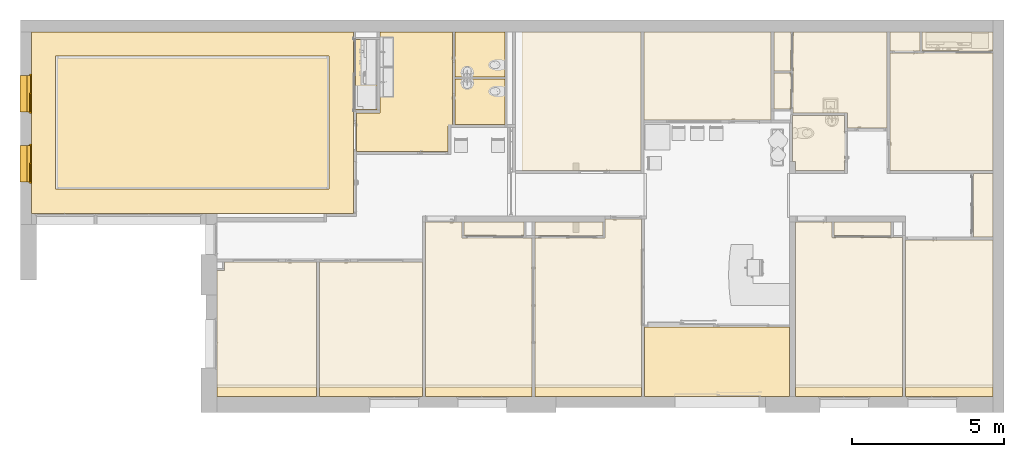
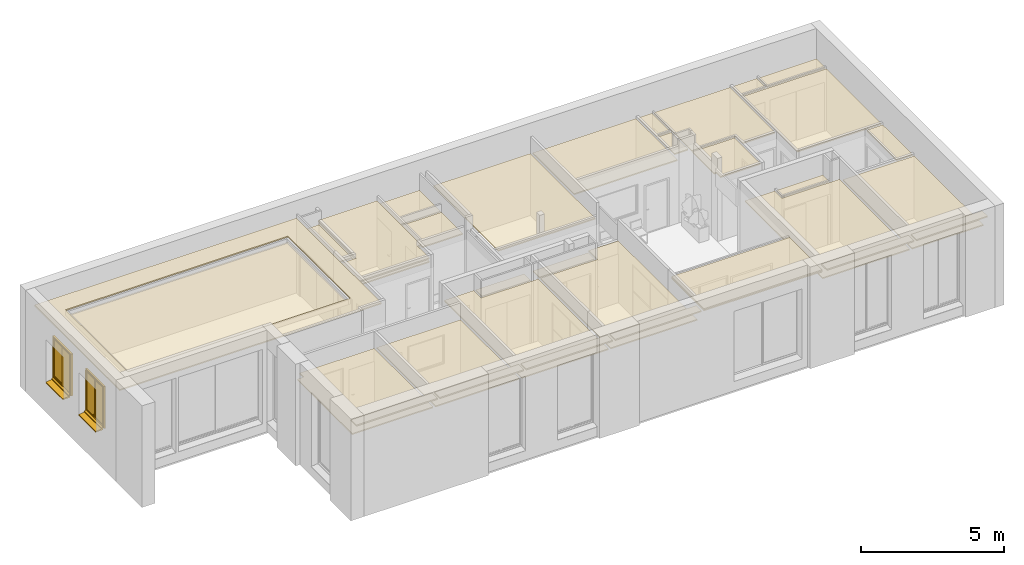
# One storey, part 26 of 32: 9 coverings, 2 windows.
"""IFC2X3 building model written with IfcOpenShell, lengths in metres."""

from ifc_helpers import new_model, entity, si_unit, converted_unit, derived_unit, direction, frame, frame_2d, origin, origin_2d_with_axis, place, context, subcontext, project, spatial, polyline, rectangle, outline, extrude, faceted_brep, source, transform, mapped, material, material_list, layer, layer_set, layer_usage, type_object, type_shapes, element, save


model = new_model("IFC2X3")

# Units and contexts
model_context = context("Model", 3, precision=1e-05, world=origin(), true_north=direction((6.12303176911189e-17, 1.0)))
plan_context = context("Plan", 3, precision=1e-05, world=origin(), true_north=direction((6.12303176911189e-17, 1.0)))
body_context = subcontext(model_context, "Body", "Model", "MODEL_VIEW")
ifc_project = project(units=[si_unit("LENGTHUNIT", "METRE"), si_unit("AREAUNIT", "SQUARE_METRE"), si_unit("VOLUMEUNIT", "CUBIC_METRE"), converted_unit("PLANEANGLEUNIT", "DEGREE", entity("IfcRatioMeasure", 0.0174532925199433), si_unit("PLANEANGLEUNIT", "RADIAN"), dimensions=[0, 0, 0, 0, 0, 0, 0]), si_unit("MASSUNIT", "GRAM", prefix="KILO"), derived_unit("MASSDENSITYUNIT", [(si_unit("MASSUNIT", "GRAM", prefix="KILO"), 1), (si_unit("LENGTHUNIT", "METRE"), -3)]), derived_unit("MOMENTOFINERTIAUNIT", [(si_unit("LENGTHUNIT", "METRE"), 4)]), si_unit("TIMEUNIT", "SECOND"), si_unit("FREQUENCYUNIT", "HERTZ"), si_unit("THERMODYNAMICTEMPERATUREUNIT", "DEGREE_CELSIUS"), derived_unit("THERMALTRANSMITTANCEUNIT", [(si_unit("MASSUNIT", "GRAM", prefix="KILO"), 1), (si_unit("THERMODYNAMICTEMPERATUREUNIT", "KELVIN"), -1), (si_unit("TIMEUNIT", "SECOND"), -3)]), derived_unit("VOLUMETRICFLOWRATEUNIT", [(si_unit("LENGTHUNIT", "METRE"), 3), (si_unit("TIMEUNIT", "SECOND"), -1)]), si_unit("ELECTRICCURRENTUNIT", "AMPERE"), si_unit("ELECTRICVOLTAGEUNIT", "VOLT"), si_unit("POWERUNIT", "WATT"), si_unit("FORCEUNIT", "NEWTON", prefix="KILO"), si_unit("ILLUMINANCEUNIT", "LUX"), si_unit("LUMINOUSFLUXUNIT", "LUMEN"), si_unit("LUMINOUSINTENSITYUNIT", "CANDELA"), derived_unit("USERDEFINED", [(si_unit("MASSUNIT", "GRAM", prefix="KILO"), -1), (si_unit("LENGTHUNIT", "METRE"), -2), (si_unit("TIMEUNIT", "SECOND"), 3), (si_unit("LUMINOUSFLUXUNIT", "LUMEN"), 1)]), derived_unit("LINEARVELOCITYUNIT", [(si_unit("LENGTHUNIT", "METRE"), 1), (si_unit("TIMEUNIT", "SECOND"), -1)]), si_unit("PRESSUREUNIT", "PASCAL"), derived_unit("USERDEFINED", [(si_unit("LENGTHUNIT", "METRE"), -2), (si_unit("MASSUNIT", "GRAM", prefix="KILO"), 1), (si_unit("TIMEUNIT", "SECOND"), -2)]), derived_unit("LINEARFORCEUNIT", [(si_unit("MASSUNIT", "GRAM", prefix="KILO"), 1), (si_unit("LENGTHUNIT", "METRE"), 1), (si_unit("TIMEUNIT", "SECOND"), -2), (si_unit("LENGTHUNIT", "METRE"), -1)]), derived_unit("PLANARFORCEUNIT", [(si_unit("MASSUNIT", "GRAM", prefix="KILO"), 1), (si_unit("LENGTHUNIT", "METRE"), 1), (si_unit("TIMEUNIT", "SECOND"), -2), (si_unit("LENGTHUNIT", "METRE"), -2)])], contexts=[model_context, plan_context])

# Site, building, storey
site_placement = place(None, origin())
site = spatial("IfcSite", under=ifc_project, at=site_placement, Name="Default", CompositionType="ELEMENT")
building_placement = place(site_placement, origin())
building = spatial("IfcBuilding", under=site, at=building_placement, CompositionType="ELEMENT")
storey_placement = place(building_placement, origin())
storey = spatial("IfcBuildingStorey", under=building, at=storey_placement, Name="0 Mairie RDC 0.00", CompositionType="ELEMENT", Elevation=-1.94916083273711e-14)

# Windows
ifc_material_1 = material(Name="Fenêtre - Poignée")
ifc_material_2 = material(Name="Fenêtre - Cadre")
ifc_material_list_1 = material_list([ifc_material_1, ifc_material_2])
ifc_material_3 = material(Name="Fenêtre - Vitrage")
ifc_material_4 = material(Name="Fenêtre - Appui")
ifc_material_list_2 = material_list([ifc_material_2, ifc_material_1, ifc_material_3, ifc_material_4])
window_style = type_object("IfcWindowStyle", Name="Fenêtres : 2 Vantaux coulissants - Droits : 1.20m x 1.75m", ConstructionType="NOTDEFINED", OperationType="DOUBLE_PANEL_VERTICAL", ParameterTakesPrecedence=False, Sizeable=False, material=ifc_material_list_2)
shared_shape = source(origin(), body_context, "Body", "SolidModel", [
    extrude(outline(polyline([(-0.0359584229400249, -0.115000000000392), (0.044041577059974, -0.115000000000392), (0.044041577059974, 0.180000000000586), (0.00479211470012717, 0.180000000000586), (-0.0209584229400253, -0.0649999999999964), (-0.0359584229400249, -0.0650000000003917), (-0.0359584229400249, -0.115000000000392)])), frame((0.0500000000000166, 0.515000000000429, 0.0440415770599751), z_axis=(1.0, 0.0, 0.0), x_axis=(0.0, 0.0, -1.0)), (0.0, 0.0, 1.0), 1.2),
    extrude(rectangle(XDim=0.012, YDim=0.524999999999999, at=frame_2d((0.0, 2.77555756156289e-17), x_axis=(1.0, 0.0))), frame((0.362500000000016, 0.365000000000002, 0.180000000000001), z_axis=(0.0, 0.0, 1.0), x_axis=(0.0, -1.0, 0.0)), (0.0, 0.0, 1.0), 1.6),
    extrude(outline(polyline([(-0.312500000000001, -0.849999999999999), (0.3125, -0.849999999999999), (0.312500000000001, 0.849999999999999), (-0.3125, 0.849999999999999), (-0.312500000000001, -0.849999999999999)]), holes=[polyline([(0.262499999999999, -0.799999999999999), (-0.2625, -0.799999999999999), (-0.262499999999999, 0.799999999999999), (0.2625, 0.799999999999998), (0.262499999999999, -0.799999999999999)])]), frame((0.362500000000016, 0.350000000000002, 0.979999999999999), z_axis=(0.0, 1.0, 0.0), x_axis=(-1.0, 0.0, 0.0)), (0.0, 0.0, 1.0), 0.0299999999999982),
    extrude(rectangle(XDim=0.012, YDim=0.525, at=frame_2d((0.0, -2.77555756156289e-17), x_axis=(1.0, 0.0))), frame((0.937500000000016, 0.335, 0.18), z_axis=(0.0, 0.0, 1.0), x_axis=(0.0, -1.0, 0.0)), (0.0, 0.0, 1.0), 1.6),
    extrude(outline(polyline([(-0.312500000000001, -0.849999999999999), (0.3125, -0.849999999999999), (0.312500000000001, 0.849999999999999), (-0.3125, 0.849999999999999), (-0.312500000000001, -0.849999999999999)]), holes=[polyline([(0.2625, -0.799999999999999), (-0.262500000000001, -0.799999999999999), (-0.2625, 0.799999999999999), (0.262500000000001, 0.799999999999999), (0.2625, -0.799999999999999)])]), frame((0.937500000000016, 0.320000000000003, 0.979999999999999), z_axis=(0.0, 1.0, 0.0), x_axis=(-1.0, 0.0, 0.0)), (0.0, 0.0, 1.0), 0.0299999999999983),
    extrude(outline(polyline([(-0.877499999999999, -0.61), (0.882499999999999, -0.61), (0.882499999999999, 0.61), (-0.877499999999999, 0.61), (-0.877499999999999, 0.6), (0.872499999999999, 0.6), (0.872499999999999, -0.6), (-0.877499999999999, -0.6), (-0.877499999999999, -0.61)])), frame((0.650000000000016, 0.39, 0.957499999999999), z_axis=(0.0, 1.0, 0.0), x_axis=(0.0, 0.0, 1.0)), (0.0, 0.0, 1.0), 0.0299999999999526),
    faceted_brep([(0.0875313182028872, 0.330000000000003, 0.629999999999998), (0.0709522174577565, 0.330000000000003, 0.629999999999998), (0.0709522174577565, 0.335000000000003, 0.629999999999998), (0.0800000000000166, 0.335000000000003, 0.629999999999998), (0.0800000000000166, 0.350000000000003, 0.629999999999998), (0.0900000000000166, 0.350000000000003, 0.629999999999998), (0.0900000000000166, 0.332468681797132, 0.629999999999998), (0.0800000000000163, 0.350000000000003, 0.730000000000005), (0.0800000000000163, 0.335000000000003, 0.730000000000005), (0.0709522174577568, 0.335000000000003, 0.730000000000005), (0.0709522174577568, 0.330000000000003, 0.730000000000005), (0.0875313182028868, 0.330000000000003, 0.730000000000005), (0.0900000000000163, 0.332468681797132, 0.730000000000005), (0.0900000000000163, 0.350000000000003, 0.730000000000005), (0.0650000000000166, 0.335000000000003, 0.635952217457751), (0.0650000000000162, 0.335000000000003, 0.724047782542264), (0.0667433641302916, 0.335000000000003, 0.72825663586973), (0.0667433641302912, 0.335000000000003, 0.631743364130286), (0.0650000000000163, 0.330000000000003, 0.724047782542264), (0.0650000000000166, 0.330000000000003, 0.635952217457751), (0.0667433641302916, 0.330000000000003, 0.72825663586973), (0.0667433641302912, 0.330000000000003, 0.631743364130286)], [[[0, 1, 2, 3, 4, 5, 6]], [[7, 8, 9, 10, 11, 12, 13]], [[12, 6, 5, 13]], [[13, 5, 4, 7]], [[7, 4, 3, 8]], [[14, 15, 16, 9, 8, 3, 2, 17]], [[18, 15, 14, 19]], [[1, 0, 11, 10, 20, 18, 19, 21]], [[11, 0, 6, 12]], [[9, 16, 20, 10]], [[15, 18, 20, 16]], [[14, 17, 21, 19]], [[2, 1, 21, 17]]]),
    faceted_brep([(1.22000000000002, 0.305000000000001, 0.629999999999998), (1.22904778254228, 0.305000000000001, 0.629999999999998), (1.22904778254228, 0.300000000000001, 0.629999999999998), (1.21246868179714, 0.300000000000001, 0.629999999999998), (1.21000000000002, 0.30246868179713, 0.629999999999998), (1.21000000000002, 0.320000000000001, 0.629999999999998), (1.22000000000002, 0.320000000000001, 0.629999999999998), (1.21000000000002, 0.320000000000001, 0.730000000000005), (1.21000000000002, 0.30246868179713, 0.730000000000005), (1.21246868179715, 0.300000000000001, 0.730000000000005), (1.22904778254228, 0.300000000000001, 0.730000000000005), (1.22904778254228, 0.305000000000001, 0.730000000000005), (1.22000000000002, 0.305000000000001, 0.730000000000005), (1.22000000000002, 0.320000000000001, 0.730000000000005), (1.23325663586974, 0.305000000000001, 0.72825663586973), (1.23500000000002, 0.305000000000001, 0.724047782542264), (1.23500000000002, 0.305000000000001, 0.635952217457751), (1.23325663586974, 0.305000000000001, 0.631743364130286), (1.23500000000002, 0.300000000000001, 0.635952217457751), (1.23500000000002, 0.300000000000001, 0.724047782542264), (1.23325663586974, 0.300000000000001, 0.631743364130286), (1.23325663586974, 0.300000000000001, 0.72825663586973)], [[[0, 1, 2, 3, 4, 5, 6]], [[7, 8, 9, 10, 11, 12, 13]], [[5, 4, 8, 7]], [[6, 5, 7, 13]], [[0, 6, 13, 12]], [[1, 0, 12, 11, 14, 15, 16, 17]], [[18, 16, 15, 19]], [[20, 18, 19, 21, 10, 9, 3, 2]], [[4, 3, 9, 8]], [[10, 21, 14, 11]], [[14, 21, 19, 15]], [[18, 20, 17, 16]], [[17, 20, 2, 1]]]),
    faceted_brep([(0.0, 0.320000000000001, 0.0799999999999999), (0.0, 0.39, 0.0799999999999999), (0.0500000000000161, 0.39, 0.0799999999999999), (0.0500000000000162, 0.454999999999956, 0.0799999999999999), (1.25000000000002, 0.454999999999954, 0.0800000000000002), (1.25000000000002, 0.39, 0.0799999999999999), (1.30000000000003, 0.39, 0.0799999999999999), (1.30000000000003, 0.320000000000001, 0.0799999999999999), (0.0, 0.320000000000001, 1.88000000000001), (0.0, 0.39, 1.88000000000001), (1.30000000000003, 0.39, 1.88000000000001), (1.25000000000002, 0.39, 0.128754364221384), (0.050000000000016, 0.39, 0.128754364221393), (0.0650000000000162, 0.39, 1.815), (0.0650000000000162, 0.39, 0.145), (1.23500000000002, 0.39, 0.145), (1.23500000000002, 0.39, 1.815), (0.0500000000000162, 0.464999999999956, 0.108658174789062), (0.0500000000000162, 0.464999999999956, 0.0749999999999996), (0.0500000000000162, 0.454999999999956, 0.0749999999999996), (1.25000000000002, 0.454999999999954, 0.0749999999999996), (1.25000000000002, 0.464999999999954, 0.0749999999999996), (1.25000000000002, 0.464999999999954, 0.108658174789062), (1.30000000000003, 0.320000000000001, 1.88000000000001), (1.25000000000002, 0.320000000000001, 1.83), (1.25000000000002, 0.32, 0.13), (0.0500000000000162, 0.320000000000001, 0.13), (0.0500000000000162, 0.320000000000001, 1.83), (0.0650000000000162, 0.38, 1.815), (0.0650000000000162, 0.38, 0.145), (1.23500000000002, 0.38, 0.145), (1.23500000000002, 0.38, 1.815), (1.25000000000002, 0.38, 1.83), (0.0500000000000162, 0.38, 1.83), (0.0500000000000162, 0.38, 0.13), (1.25000000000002, 0.38, 0.13)], [[[0, 1, 2, 3, 4, 5, 6, 7]], [[1, 0, 8, 9]], [[1, 9, 10, 6, 5, 11, 12, 2], [13, 14, 15, 16]], [[12, 17, 18, 19, 3, 2]], [[3, 19, 20, 4]], [[4, 20, 21, 22, 11, 5]], [[6, 10, 23, 7]], [[0, 7, 23, 8], [24, 25, 26, 27]], [[13, 28, 29, 14]], [[29, 30, 15, 14]], [[31, 16, 15, 30]], [[17, 12, 11, 22]], [[32, 33, 34, 35], [28, 31, 30, 29]], [[34, 33, 27, 26]], [[26, 25, 35, 34]], [[24, 32, 35, 25]], [[18, 17, 22, 21]], [[19, 18, 21, 20]], [[13, 16, 31, 28]], [[33, 32, 24, 27]], [[10, 9, 8, 23]]]),
])
type_shapes(window_style, [shared_shape])
window_1_placement = place(storey_placement, frame((-29.5670149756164, -4.66693490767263, 0.87), z_axis=(0.0, 0.0, 1.0), x_axis=(0.0, 1.0, 0.0)))
element("IfcWindow", 1, at=window_1_placement, inside=storey, type_object=window_style, material=ifc_material_list_1, Name="Fenêtres : 2 Vantaux coulissants - Droits : 1.20m x 1.75m", ObjectType="2 Vantaux coulissants - Droits:1.20m x 1.75m", OverallHeight=1.88000000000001, OverallWidth=1.30000000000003, context=body_context, shape_type="MappedRepresentation", body=[
    mapped(shared_shape, transform((0.0, 0.0, 0.0), scale=1.0)),
])
ifc_material_list_3 = material_list([ifc_material_1, ifc_material_2])
window_2_placement = place(storey_placement, frame((-29.5670149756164, -6.96577095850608, 0.87), z_axis=(0.0, 0.0, 1.0), x_axis=(0.0, 1.0, 0.0)))
element("IfcWindow", 2, at=window_2_placement, inside=storey, type_object=window_style, material=ifc_material_list_3, Name="Fenêtres : 2 Vantaux coulissants - Droits : 1.20m x 1.75m", ObjectType="2 Vantaux coulissants - Droits:1.20m x 1.75m", OverallHeight=1.88000000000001, OverallWidth=1.30000000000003, context=body_context, shape_type="MappedRepresentation", body=[
    mapped(shared_shape, transform((0.0, 0.0, 0.0), scale=1.0)),
])

# Coverings
ifc_material_5 = material(Name="Vide")
ifc_layer_1 = layer(ifc_material_5, 0.04)
ifc_material_6 = material(Name="Plâtre")
ifc_layer_2 = layer(ifc_material_6, 0.01)
ifc_layer_set = layer_set([ifc_layer_1, ifc_layer_2], Name="Plafond composé:A Plafond plaque de platre ba10")
ifc_layer_usage_1 = layer_usage(ifc_layer_set, "AXIS3", "POSITIVE", 0.0)
covering_type_1 = type_object("IfcCoveringType", Name="Plafonds : Plafond composé : A Plafond plaque de platre ba10", PredefinedType="CEILING")
covering_1_placement = place(storey_placement, frame((-23.7782803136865, -13.6785662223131, 2.6)))
element("IfcCovering", 3, at=covering_1_placement, inside=storey, type_object=covering_type_1, material=ifc_layer_usage_1, Name="Plafonds : Plafond composé : A Plafond plaque de platre ba10", ObjectType="Plafond composé:A Plafond plaque de platre ba10", PredefinedType="CEILING", context=body_context, shape_type="SweptSolid", body=[
    extrude(rectangle(XDim=0.649714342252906, YDim=2.09732137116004, at=frame_2d((0.0, 5.55111512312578e-16), x_axis=(1.0, 0.0))), frame((25.2310387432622, 5.99612306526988, 0.0), z_axis=(0.0, 0.0, 1.0), x_axis=(-1.0, 0.0, 0.0)), (0.0, 0.0, 1.0), 0.05),
    extrude(outline(polyline([(-2.6595920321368, -2.09820015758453), (1.4698966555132, -2.09820015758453), (1.4698966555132, 0.92027620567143), (1.18969537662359, 0.920276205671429), (1.18969537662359, 1.17792395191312), (-2.65959203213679, 1.17792395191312), (-2.6595920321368, -2.09820015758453)])), frame((1.17792395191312, 2.65959203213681, 0.0), z_axis=(0.0, 0.0, 1.0), x_axis=(0.0, 1.0, 0.0)), (0.0, 0.0, 1.0), 0.05),
    extrude(rectangle(XDim=0.549999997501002, YDim=1.28498533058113, at=frame_2d((-5.55111512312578e-16, 0.0), x_axis=(1.0, 0.0))), frame((18.6257836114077, 11.0633098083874, 0.0), z_axis=(0.0, 0.0, 1.0), x_axis=(-1.0, 0.0, 0.0)), (0.0, 0.0, 1.0), 0.05),
    extrude(rectangle(XDim=0.549999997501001, YDim=1.18305669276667, at=origin_2d_with_axis()), frame((18.6257836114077, 9.7592887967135, 0.0), z_axis=(0.0, 0.0, 1.0), x_axis=(-1.0, 0.0, 0.0)), (0.0, 0.0, 1.0), 0.05),
    extrude(outline(polyline([(-1.46363460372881, -1.94877564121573), (1.6261068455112, -1.94877564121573), (1.6261068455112, 0.731954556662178), (-0.162472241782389, 0.731954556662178), (-0.162472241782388, 1.21682108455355), (-1.46363460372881, 1.21682108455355), (-1.46363460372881, -1.94877564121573)])), frame((20.5968904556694, 9.75773393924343, 0.0), z_axis=(0.0, 0.0, 1.0), x_axis=(-1.0, 0.0, 0.0)), (0.0, 0.0, 1.0), 0.05),
    extrude(rectangle(XDim=0.983737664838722, YDim=0.629999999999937, at=frame_2d((0.0, -8.04911692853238e-16), x_axis=(1.0, 0.0))), frame((22.6523938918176, 11.390802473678, 0.0), z_axis=(0.0, 0.0, 1.0), x_axis=(-1.0, 0.0, 0.0)), (0.0, 0.0, 1.0), 0.05),
    extrude(rectangle(XDim=3.86101872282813, YDim=3.39537085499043, at=frame_2d((-2.66453525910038e-15, -2.22044604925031e-16), x_axis=(1.0, 0.0))), frame((23.8582104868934, 9.07529311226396, 0.0), z_axis=(0.0, 0.0, 1.0), x_axis=(0.0, -1.0, 0.0)), (0.0, 0.0, 1.0), 0.05),
    extrude(rectangle(XDim=2.88400782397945, YDim=4.84746237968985, at=frame_2d((0.0, 4.44089209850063e-16), x_axis=(1.0, 0.0))), frame((24.1138920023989, 2.42373118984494, 0.0), z_axis=(0.0, 0.0, 1.0), x_axis=(-1.0, 0.0, 0.0)), (0.0, 0.0, 1.0), 0.05),
    extrude(rectangle(XDim=1.87996371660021, YDim=0.44348846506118, at=frame_2d((2.77555756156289e-16, 0.0), x_axis=(1.0, 0.0))), frame((21.2622215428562, 5.21855344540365, 0.0), z_axis=(0.0, 0.0, 1.0), x_axis=(-1.0, 0.0, 0.0)), (0.0, 0.0, 1.0), 0.05),
    extrude(outline(polyline([(1.47110691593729, 0.372730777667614), (1.98459538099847, 0.372730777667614), (1.98459538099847, 1.5741868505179), (-3.45570229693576, 1.57418685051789), (-3.45570229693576, -1.94691762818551), (1.47110691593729, -1.9469176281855), (1.47110691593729, 0.372730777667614)])), frame((20.6249704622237, 3.45570229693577, 0.0), z_axis=(0.0, 0.0, 1.0), x_axis=(0.0, 1.0, 0.0)), (0.0, 0.0, 1.0), 0.05),
    extrude(rectangle(XDim=0.629999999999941, YDim=2.34163319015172, at=frame_2d((2.77555756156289e-16, 0.0), x_axis=(1.0, 0.0))), frame((24.3850793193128, 11.390802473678, 0.0), z_axis=(0.0, 0.0, 1.0), x_axis=(0.0, -1.0, 0.0)), (0.0, 0.0, 1.0), 0.05),
    extrude(rectangle(XDim=4.18095044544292, YDim=2.90545166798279, at=frame_2d((-4.44089209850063e-16, 0.0), x_axis=(1.0, 0.0))), frame((16.1603083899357, 10.2530766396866, 0.0), z_axis=(0.0, 0.0, 1.0), x_axis=(-1.0, 0.0, 0.0)), (0.0, 0.0, 1.0), 0.05),
    extrude(rectangle(XDim=3.9281797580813, YDim=4.55977029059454, at=frame_2d((1.11022302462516e-15, 0.0), x_axis=(1.0, 0.0))), frame((12.0057432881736, 9.4259173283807, 0.0), z_axis=(0.0, 0.0, 1.0), x_axis=(-1.0, 0.0, 0.0)), (0.0, 0.0, 1.0), 0.05),
    extrude(outline(polyline([(-0.367561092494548, -1.43537558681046), (1.93358528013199, -1.43537558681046), (1.93358528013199, 3.49057754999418), (-1.56602418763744, 3.49057754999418), (-1.56602418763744, -2.05520196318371), (-0.367561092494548, -2.05520196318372), (-0.367561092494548, -1.43537558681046)])), frame((12.4076105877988, 3.49057754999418, 0.0), z_axis=(0.0, 0.0, 1.0), x_axis=(-1.0, 0.0, 0.0)), (0.0, 0.0, 1.0), 0.05),
    extrude(outline(polyline([(-3.45719636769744, -1.93412743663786), (1.46859025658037, -1.93412743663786), (1.46859025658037, 0.367063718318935), (1.98860611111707, 0.367063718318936), (1.98860611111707, 1.56706371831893), (-3.45719636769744, 1.56706371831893), (-3.45719636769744, -1.93412743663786)])), frame((8.43989787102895, 3.45719636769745, 0.0), z_axis=(0.0, 0.0, 1.0), x_axis=(0.0, 1.0, 0.0)), (0.0, 0.0, 1.0), 0.05),
    extrude(rectangle(XDim=3.39671004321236, YDim=4.12948868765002, at=frame_2d((0.0, -1.11022302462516e-15), x_axis=(1.0, 0.0))), frame((5.07447913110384, 2.06474434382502, 0.0), z_axis=(0.0, 0.0, 1.0), x_axis=(-1.0, 0.0, 0.0)), (0.0, 0.0, 1.0), 0.05),
    extrude(outline(polyline([(-1.10571939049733, -1.10733042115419), (0.602859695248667, -1.10733042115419), (0.602859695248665, 0.403665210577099), (0.502859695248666, 0.403665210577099), (0.502859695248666, 0.703665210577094), (-1.10571939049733, 0.703665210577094), (-1.10571939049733, -1.10733042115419)])), frame((19.5536433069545, 7.84844896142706, 0.0), z_axis=(0.0, 0.0, 1.0), x_axis=(-1.0, 0.0, 0.0)), (0.0, 0.0, 1.0), 0.05),
    extrude(rectangle(XDim=2.23114637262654, YDim=0.449849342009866, at=frame_2d((-9.99200722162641e-16, 0.0), x_axis=(1.0, 0.0))), frame((11.5895984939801, 5.22087780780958, 0.0), z_axis=(0.0, 0.0, 1.0), x_axis=(-1.0, 0.0, 0.0)), (0.0, 0.0, 1.0), 0.05),
    extrude(rectangle(XDim=1.96359633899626, YDim=0.450015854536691, at=frame_2d((0.0, -5.41233724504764e-16), x_axis=(1.0, 0.0))), frame((9.12463232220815, 5.22079455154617, 0.0), z_axis=(0.0, 0.0, 1.0), x_axis=(-1.0, 0.0, 0.0)), (0.0, 0.0, 1.0), 0.05),
])
ifc_layer_usage_2 = layer_usage(ifc_layer_set, "AXIS3", "POSITIVE", 0.0)
covering_type_2 = type_object("IfcCoveringType", Name="Plafonds : Plafond composé : A Plafond plaque de platre ba10", PredefinedType="CEILING")
covering_2_placement = place(storey_placement, frame((-19.1821823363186, -5.91276374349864, 2.75)))
element("IfcCovering", 4, at=covering_2_placement, inside=storey, type_object=covering_type_2, material=ifc_layer_usage_2, Name="Plafonds : Plafond composé : A Plafond plaque de platre ba10", ObjectType="Plafond composé:A Plafond plaque de platre ba10", PredefinedType="CEILING", context=body_context, shape_type="SweptSolid", body=[
    extrude(outline(polyline([(-2.42674529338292, 0.967946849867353), (-2.42674529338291, -1.42828511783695), (0.670412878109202, -1.42828511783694), (0.670412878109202, -1.27760858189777), (1.51325470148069, -1.27760858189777), (1.51325470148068, 1.73794684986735), (0.243077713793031, 1.73794684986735), (0.243077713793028, 0.967946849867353), (-2.42674529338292, 0.967946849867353)])), frame((1.73794684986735, 1.51325470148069, 0.0), z_axis=(0.0, 0.0, -1.0), x_axis=(0.0, -1.0, 0.0)), (0.0, 0.0, -1.0), 0.05),
])
ifc_layer_usage_3 = layer_usage(ifc_layer_set, "AXIS3", "POSITIVE", 0.0)
covering_type_3 = type_object("IfcCoveringType", Name="Plafonds : Plafond composé : A Plafond plaque de platre ba10", PredefinedType="CEILING")
covering_3_placement = place(storey_placement, frame((-19.2121823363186, -5.91276374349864, 2.75)))
element("IfcCovering", 5, at=covering_3_placement, inside=storey, type_object=covering_type_3, material=ifc_layer_usage_3, Name="Plafonds : Plafond composé : A Plafond plaque de platre ba10", ObjectType="Plafond composé:A Plafond plaque de platre ba10", PredefinedType="CEILING", context=body_context, shape_type="SweptSolid", body=[
    extrude(outline(polyline([(-2.42674529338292, 0.967946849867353), (-2.42674529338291, -1.42828511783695), (0.670412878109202, -1.42828511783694), (0.670412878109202, -1.27760858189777), (1.51325470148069, -1.27760858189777), (1.51325470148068, 1.73794684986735), (0.243077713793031, 1.73794684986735), (0.243077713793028, 0.967946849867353), (-2.42674529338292, 0.967946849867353)])), frame((1.76794684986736, 1.51325470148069, 0.0), z_axis=(0.0, 0.0, -1.0), x_axis=(0.0, -1.0, 0.0)), (0.0, 0.0, -1.0), 0.05),
    extrude(rectangle(XDim=0.700000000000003, YDim=2.32099999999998, at=frame_2d((1.08246744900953e-15, 0.0), x_axis=(1.0, 0.0))), frame((0.350000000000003, 2.5294999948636, 0.0), z_axis=(0.0, 0.0, 1.0), x_axis=(-1.0, 0.0, 0.0)), (0.0, 0.0, 1.0), 0.05),
])
ifc_layer_usage_4 = layer_usage(ifc_layer_set, "AXIS3", "POSITIVE", 0.0)
covering_type_4 = type_object("IfcCoveringType", Name="Plafonds : Plafond composé : A Plafond plaque de platre ba10", PredefinedType="CEILING")
covering_4_placement = place(storey_placement, frame((-19.1821823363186, -5.91276374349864, 2.6)))
element("IfcCovering", 6, at=covering_4_placement, inside=storey, type_object=covering_type_4, material=ifc_layer_usage_4, Name="Plafonds : Plafond composé : A Plafond plaque de platre ba10", ObjectType="Plafond composé:A Plafond plaque de platre ba10", PredefinedType="CEILING", context=body_context, shape_type="SweptSolid", body=[
    extrude(rectangle(XDim=1.47857908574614, YDim=1.64917428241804, at=frame_2d((2.22044604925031e-16, -2.16493489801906e-15), x_axis=(1.0, 0.0))), frame((4.06081910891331, 3.20071045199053, 0.0), z_axis=(0.0, 0.0, 1.0), x_axis=(0.0, 1.0, 0.0)), (0.0, 0.0, 1.0), 0.05),
    extrude(outline(polyline([(-1.42828511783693, -2.41424529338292), (0.967946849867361, -2.41424529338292), (0.967946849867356, 0.255577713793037), (1.73794684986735, 0.255577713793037), (1.73794684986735, 1.52575470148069), (-1.27760858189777, 1.52575470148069), (-1.27760858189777, 0.632912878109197), (-1.42828511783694, 0.632912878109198), (-1.42828511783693, -2.41424529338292)])), frame((1.73794684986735, 1.52575470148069, 0.0), z_axis=(0.0, 0.0, 1.0), x_axis=(-1.0, 0.0, 0.0)), (0.0, 0.0, 1.0), 0.05),
    extrude(rectangle(XDim=1.49857908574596, YDim=1.64917428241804, at=frame_2d((-2.77555756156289e-16, 0.0), x_axis=(1.0, 0.0))), frame((4.06081910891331, 1.64213136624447, 0.0), z_axis=(0.0, 0.0, 1.0), x_axis=(0.0, -1.0, 0.0)), (0.0, 0.0, 1.0), 0.05),
])
ifc_layer_usage_5 = layer_usage(ifc_layer_set, "AXIS3", "POSITIVE", 0.0)
covering_type_5 = type_object("IfcCoveringType", Name="Plafonds : Plafond composé : A Plafond plaque de platre ba10", PredefinedType="CEILING")
covering_5_placement = place(storey_placement, frame((-29.0870149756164, -7.15302112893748, 2.9)))
element("IfcCovering", 7, at=covering_5_placement, inside=storey, type_object=covering_type_5, material=ifc_layer_usage_5, Name="Plafonds : Plafond composé : A Plafond plaque de platre ba10", ObjectType="Plafond composé:A Plafond plaque de platre ba10", PredefinedType="CEILING", context=body_context, shape_type="SweptSolid", body=[
    extrude(rectangle(XDim=9.00483263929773, YDim=4.38025738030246, at=origin_2d_with_axis()), frame((4.50241631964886, 2.19012869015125, 0.0)), (0.0, 0.0, 1.0), 0.05),
])
ifc_layer_usage_6 = layer_usage(ifc_layer_set, "AXIS3", "POSITIVE", 0.0)
covering_type_6 = type_object("IfcCoveringType", Name="Plafonds : Plafond composé : A Plafond plaque de platre ba10", PredefinedType="CEILING")
covering_6_placement = place(storey_placement, frame((-29.8870149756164, -7.9527608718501, 3.15)))
element("IfcCovering", 8, at=covering_6_placement, inside=storey, type_object=covering_type_6, material=ifc_layer_usage_6, Name="Plafonds : Plafond composé : A Plafond plaque de platre ba10", ObjectType="Plafond composé:A Plafond plaque de platre ba10", PredefinedType="CEILING", context=body_context, shape_type="SweptSolid", body=[
    extrude(outline(polyline([(-5.30241631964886, -2.98999856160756), (5.30241631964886, -2.98999856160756), (5.30241631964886, 2.98999856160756), (-5.30241631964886, 2.98999856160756), (-5.30241631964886, -2.98999856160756)]), holes=[polyline([(-4.50241631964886, -2.18999856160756), (-4.50241631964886, 2.18999856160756), (4.50241631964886, 2.18999856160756), (4.50241631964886, -2.18999856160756), (-4.50241631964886, -2.18999856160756)])]), frame((5.30241631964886, 2.98999856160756, 0.0), z_axis=(0.0, 0.0, 1.0), x_axis=(-1.0, 0.0, 0.0)), (0.0, 0.0, 1.0), 0.05),
])
ifc_layer_usage_7 = layer_usage(ifc_layer_set, "AXIS3", "POSITIVE", 0.0)
covering_type_7 = type_object("IfcCoveringType", Name="Plafonds : Plafond composé : A Plafond plaque de platre ba10", PredefinedType="CEILING")
covering_7_placement = place(storey_placement, frame((-23.7782803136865, -13.9785662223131, 3.15)))
element("IfcCovering", 9, at=covering_7_placement, inside=storey, type_object=covering_type_7, material=ifc_layer_usage_7, Name="Plafonds : Plafond composé : A Plafond plaque de platre ba10", ObjectType="Plafond composé:A Plafond plaque de platre ba10", PredefinedType="CEILING", context=body_context, shape_type="SweptSolid", body=[
    extrude(rectangle(XDim=0.370000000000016, YDim=2.88400782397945, at=frame_2d((2.16493489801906e-15, 0.0), x_axis=(1.0, 0.0))), frame((24.1138920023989, 0.185000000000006, 0.0), z_axis=(0.0, 0.0, 1.0), x_axis=(0.0, 1.0, 0.0)), (0.0, 0.0, 1.0), 0.05),
    extrude(rectangle(XDim=0.369999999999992, YDim=3.27612410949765, at=frame_2d((1.08246744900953e-15, 0.0), x_axis=(1.0, 0.0))), frame((1.63806205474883, 0.185000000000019, 0.0), z_axis=(0.0, 0.0, 1.0), x_axis=(0.0, 1.0, 0.0)), (0.0, 0.0, 1.0), 0.05),
    extrude(rectangle(XDim=0.37, YDim=3.39671004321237, at=frame_2d((1.08246744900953e-15, -1.11022302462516e-15), x_axis=(1.0, 0.0))), frame((5.07447913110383, 0.185000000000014, 0.0), z_axis=(0.0, 0.0, 1.0), x_axis=(0.0, 1.0, 0.0)), (0.0, 0.0, 1.0), 0.05),
    extrude(rectangle(XDim=0.370000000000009, YDim=3.50119115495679, at=frame_2d((1.08246744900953e-15, -2.22044604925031e-15), x_axis=(1.0, 0.0))), frame((8.62342973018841, 0.18500000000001, 0.0), z_axis=(0.0, 0.0, 1.0), x_axis=(0.0, 1.0, 0.0)), (0.0, 0.0, 1.0), 0.05),
    extrude(rectangle(XDim=0.369999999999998, YDim=3.49960946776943, at=frame_2d((2.16493489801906e-15, 1.11022302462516e-15), x_axis=(1.0, 0.0))), frame((12.2238300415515, 0.185000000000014, 0.0), z_axis=(0.0, 0.0, 1.0), x_axis=(0.0, 1.0, 0.0)), (0.0, 0.0, 1.0), 0.05),
    extrude(rectangle(XDim=0.370000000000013, YDim=3.5211044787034, at=frame_2d((-1.08246744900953e-15, 0.0), x_axis=(1.0, 0.0))), frame((20.8113358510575, 0.18500000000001, 0.0), z_axis=(0.0, 0.0, 1.0), x_axis=(0.0, 1.0, 0.0)), (0.0, 0.0, 1.0), 0.05),
])
ifc_layer_usage_8 = layer_usage(ifc_layer_set, "AXIS3", "POSITIVE", 0.0)
covering_type_8 = type_object("IfcCoveringType", Name="Plafonds : Plafond composé : A Plafond plaque de platre ba10", PredefinedType="CEILING")
covering_8_placement = place(storey_placement, frame((-9.70464553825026, -13.9785662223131, 3.15)))
element("IfcCovering", 10, at=covering_8_placement, inside=storey, type_object=covering_type_8, material=ifc_layer_usage_8, Name="Plafonds : Plafond composé : A Plafond plaque de platre ba10", ObjectType="Plafond composé:A Plafond plaque de platre ba10", PredefinedType="CEILING", context=body_context, shape_type="SweptSolid", body=[
    extrude(rectangle(XDim=4.77714883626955, YDim=2.27998283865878, at=frame_2d((-0.319522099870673, 0.227998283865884), x_axis=(1.0, 0.0))), frame((2.70809651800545, 0.911993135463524, 0.0)), (0.0, 0.0, 1.0), 0.05),
])
ifc_layer_usage_9 = layer_usage(ifc_layer_set, "AXIS3", "POSITIVE", 0.0)
covering_type_9 = type_object("IfcCoveringType", Name="Plafonds : Plafond composé : A Plafond plaque de platre ba10", PredefinedType="CEILING")
covering_9_placement = place(storey_placement, frame((-9.70464553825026, -13.9785662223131, 3.2)))
element("IfcCovering", 11, at=covering_9_placement, inside=storey, type_object=covering_type_9, material=ifc_layer_usage_9, Name="Plafonds : Plafond composé : A Plafond plaque de platre ba10", ObjectType="Plafond composé:A Plafond plaque de platre ba10", PredefinedType="CEILING", context=body_context, shape_type="SweptSolid", body=[
    extrude(rectangle(XDim=4.77714883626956, YDim=2.2799828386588, at=origin_2d_with_axis()), frame((2.38857441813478, 1.1399914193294, 0.0), z_axis=(0.0, 0.0, 1.0), x_axis=(-1.0, 0.0, 0.0)), (0.0, 0.0, 1.0), 0.05),
])

save(model, "model.ifc")
